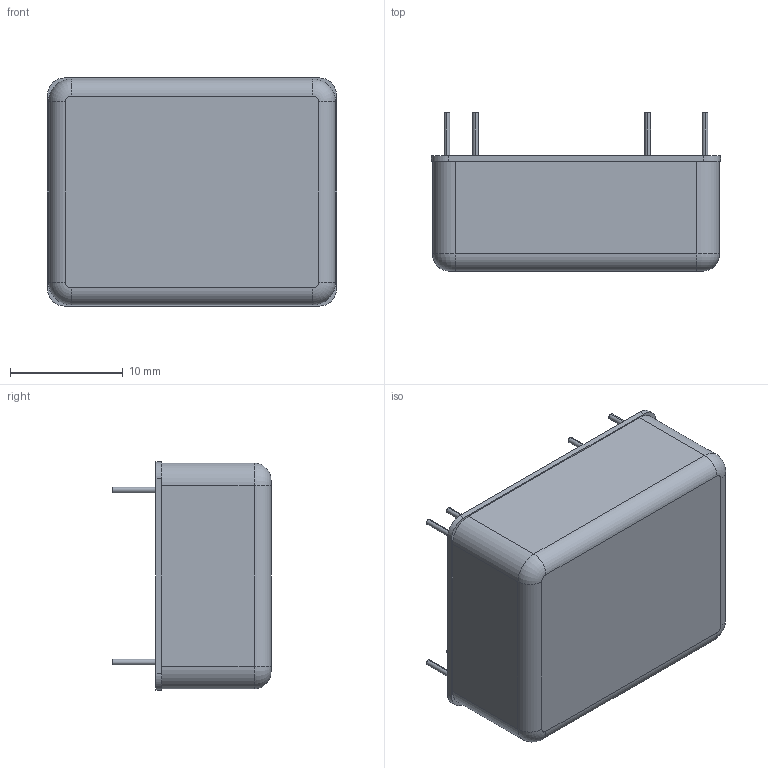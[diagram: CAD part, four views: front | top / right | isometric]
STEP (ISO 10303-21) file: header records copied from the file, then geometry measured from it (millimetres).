
FILE_DESCRIPTION (( 'STEP AP203' ), '1' );
FILE_NAME ('JCA03 Dual 3D Assembly 260821.STEP', '2026-08-21T01:34:10', ( 'cincon' ), ( '' ), 'SwSTEP 2.0', 'SolidWorks 2020', '' );
FILE_SCHEMA (( 'CONFIG_CONTROL_DESIGN' ));
Length unit declared in the file: inch
Products named in the file (1): JCA03 Dual 3D Assembly 260821
Bounding box: 25.6 x 14 x 20.2 mm (x, y, z)
Volume: 5074.3 mm3; surface area: 2522 mm2
Topology: 1 solids, 2 shells, 146 faces, 339 edges, 218 vertices
Faces by surface type: cylinder 71, plane 63, torus 12
Entity records: 4282 total; most frequent: DIRECTION 803, CARTESIAN_POINT 704, ORIENTED_EDGE 678, EDGE_CURVE 339, AXIS2_PLACEMENT_3D 317, VERTEX_POINT 218, CIRCLE 170, LINE 169
